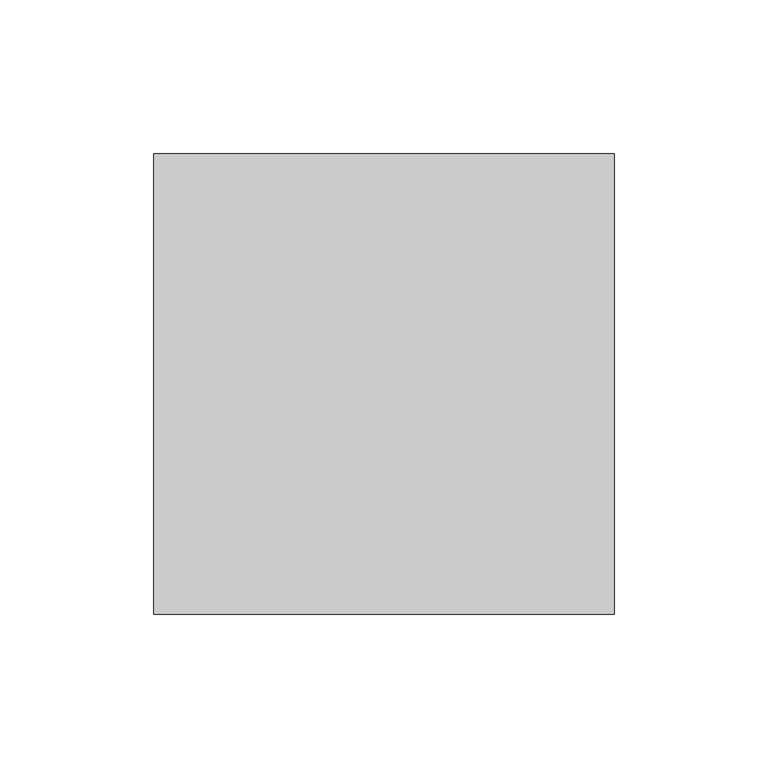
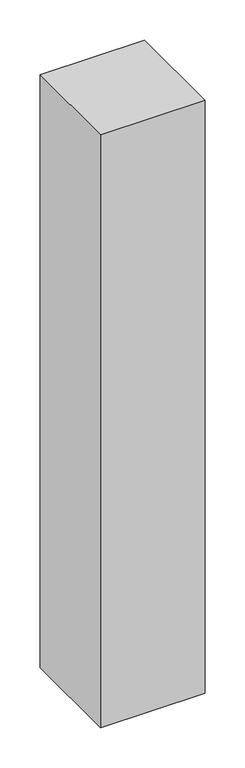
"""IFC4 building model written with IfcOpenShell, lengths in millimetres: proxy geometry, Брус : 150х150."""

from ifc_helpers import new_model, si_unit, origin, origin_with_axes, place, context, project, spatial, polyline, outline, extrude, source, transform, mapped, element, save


def generic_models_7b0d3cbc(model_context):
    return source(origin(), model_context, "Body", "SweptSolid", [
        extrude(outline(polyline([(150.0, 0.0), (0.0, 0.0), (0.0, 150.0), (150.0, 150.0), (150.0, 0.0)])), origin_with_axes(), (0.0, 0.0, 1.0), 900.0),
    ])


if __name__ == "__main__":
    model = new_model("IFC4")
    model_context = context("Model", 3, world=origin())
    ifc_project = project(units=[si_unit("LENGTHUNIT", "METRE", prefix="MILLI")], contexts=[model_context])
    site = spatial("IfcSite", under=ifc_project)
    building = spatial("IfcBuilding", under=site)
    placement = place(None, origin())
    generic_models_shape = generic_models_7b0d3cbc(model_context)
    element("IfcBuildingElementProxy", 1, Name="Брус : 150х150", ObjectType="Брус : 150х150", at=placement, inside=building, context=model_context, shape_type="MappedRepresentation", body=[
        mapped(generic_models_shape, transform((0.0, 0.0, 0.0), x_axis=(1.0, 0.0, 0.0), y_axis=(0.0, 1.0, 0.0), z_axis=(0.0, 0.0, 1.0))),
    ])
    save(model, "model.ifc")
